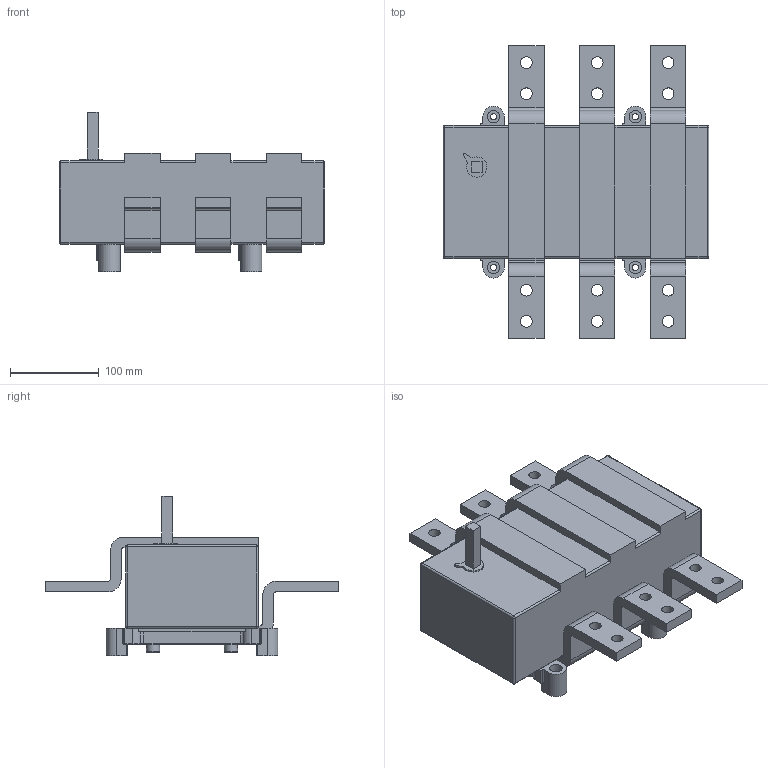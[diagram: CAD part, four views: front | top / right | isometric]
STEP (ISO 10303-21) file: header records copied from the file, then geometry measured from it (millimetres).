
FILE_DESCRIPTION(/* description */ (''),/* implementation_level */ '2;1');
FILE_NAME(/* name */ 'RA 1250 P3.stp',/* time_stamp */ '2021-08-19T09:11:26+02:00',/* author */ (''),/* organization */ (''),/* preprocessor_version */ 'ST-DEVELOPER v18.1',/* originating_system */ 'SIEMENS PLM Software NX 1965',/* authorisation */ '');
FILE_SCHEMA (('AUTOMOTIVE_DESIGN { 1 0 10303 214 3 1 1 1 }'));
Length unit declared in the file: millimetre
Products named in the file (1): RA 1250 P3_stp
Bounding box: 300 x 330 x 180 mm (x, y, z)
Volume: 5036443.4 mm3; surface area: 316830.3 mm2
Topology: 1 solids, 1 shells, 410 faces, 1088 edges, 670 vertices
Faces by surface type: cylinder 158, plane 142, bspline 50, torus 44, cone 8, sphere 8
Full cylindrical faces by diameter (mm): 4.8 x4, 5.6 x4, 7 x4, 13 x12, 13.5 x4, 14 x4, 15 x4
Entity records: 14863 total; most frequent: CARTESIAN_POINT 5143, ORIENTED_EDGE 2000, DIRECTION 1986, EDGE_CURVE 1000, AXIS2_PLACEMENT_3D 745, VERTEX_POINT 654, LINE 496, VECTOR 496
